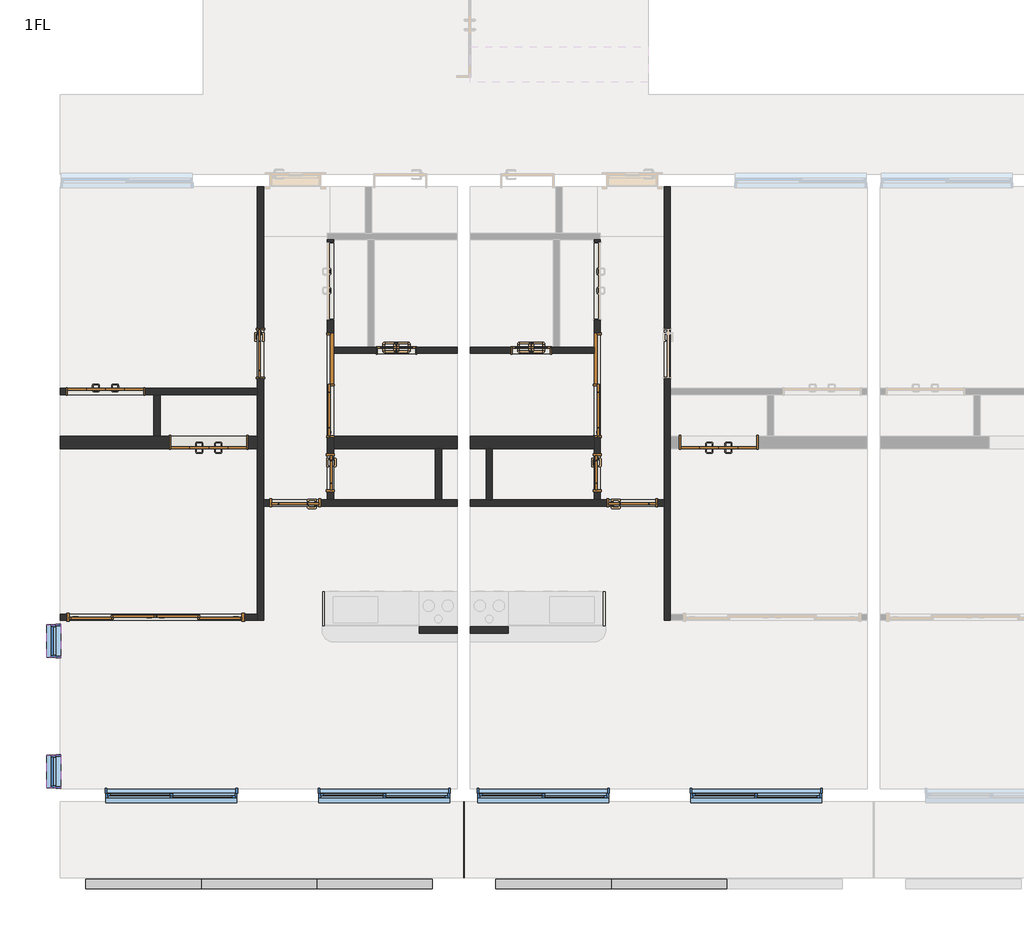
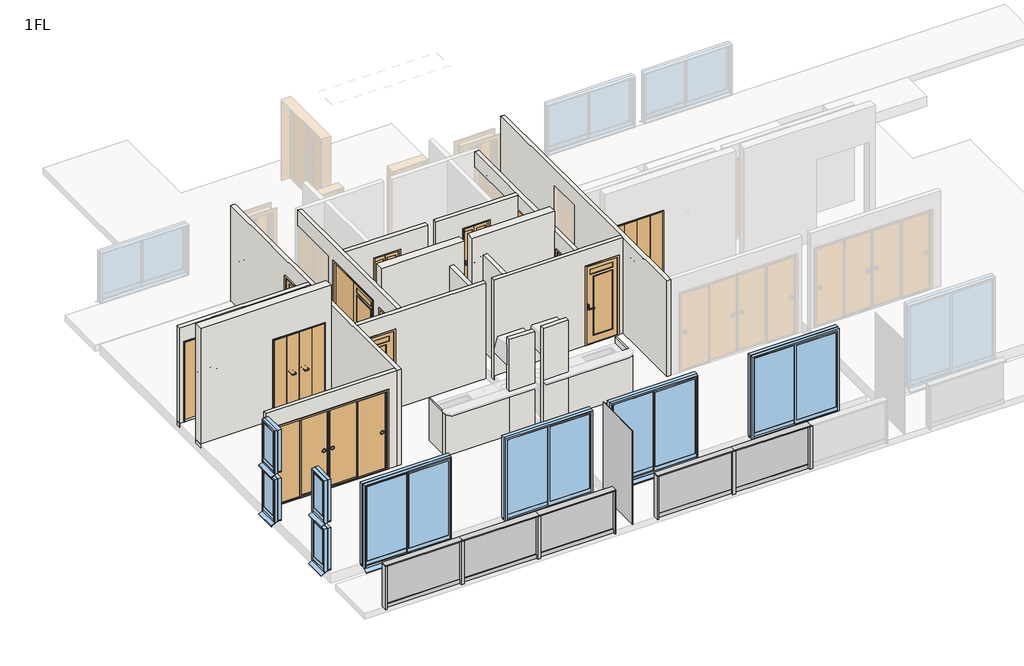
# One storey, part 1 of 3: 22 walls, 13 doors, 12 members, 8 windows, 6 plates.
"""IFC4 building model written with IfcOpenShell, lengths in millimetres."""

from ifc_helpers import new_model, si_unit, frame, origin, place, context, project, spatial, polyline, outline, extrude, faceted_brep, transform, mapped, element, save
from components import w1200h2000_6a144d60, w1200h2000_98cacc9b, w1200h2000_ebe1d490, w1600h2000_4c3c234a, w1600h2000_ca690e72, w2800h2000_670b855b, w600h2000_7f2747f4, w600h2000_6a266bef, w600h2000_94bb9c3c, w600h2000_8ea70a65, w800h2000_13e9f519, w800h2000_ccb03061, member_25x150_3f8205e2, member_25x150_f694351b, member_70x150_851c8a9b, plate_9f48129f, plate_365944b3, plate_cef4847d, window_2000x2000_f1ff98da, window_450x1000_e0a5e2da

model = new_model("IFC4")

# Units and contexts
model_context = context("Model", 3, world=origin())
ifc_project = project(units=[si_unit("LENGTHUNIT", "METRE", prefix="MILLI")], contexts=[model_context])

# Site, building, storey
site = spatial("IfcSite", under=ifc_project)
building = spatial("IfcBuilding", under=site)
storey = spatial("IfcBuildingStorey", under=building, Name="1FL", Elevation=1000.0)

# Doors
placement = place(None, origin())
w1200h2000_shape = w1200h2000_6a144d60(model_context)
element("IfcDoor", 1, ObjectType="木製折戸 : w1200h2000", at=placement, inside=storey, context=model_context, shape_type="MappedRepresentation", body=[
    mapped(w1200h2000_shape, transform((-10366.2187246, -9020.1171638, 1100.0), x_axis=(1.0, 0.0, 0.0), y_axis=(0.0, 1.0, 0.0), z_axis=(0.0, 0.0, 1.0))),
])
w1200h2000_2_shape = w1200h2000_98cacc9b(model_context)
element("IfcDoor", 2, ObjectType="木製折戸 : w1200h2000", at=placement, inside=storey, context=model_context, shape_type="MappedRepresentation", body=[
    mapped(w1200h2000_2_shape, transform((-8741.2187246, -9820.1171638, 1100.0), x_axis=(-1.0, 0.0, 0.0), y_axis=(0.0, -1.0, 0.0), z_axis=(0.0, 0.0, 1.0))),
])
w1200h2000_3_shape = w1200h2000_ebe1d490(model_context)
element("IfcDoor", 3, ObjectType="木製折戸 : w1200h2000", at=placement, inside=storey, context=model_context, shape_type="MappedRepresentation", body=[
    mapped(w1200h2000_3_shape, transform((-716.2187246, -9820.1171638, 1100.0), x_axis=(1.0, 0.0, 0.0), y_axis=(0.0, 1.0, 0.0), z_axis=(0.0, 0.0, 1.0))),
])
w1600h2000_shape = w1600h2000_4c3c234a(model_context)
element("IfcDoor", 4, ObjectType="片引戸CL2017 : w1600h2000", at=placement, inside=storey, context=model_context, shape_type="MappedRepresentation", body=[
    mapped(w1600h2000_shape, transform((-6828.7187246, -8920.1171638, 1100.0), x_axis=(0.0, -1.0, 0.0), y_axis=(1.0, 0.0, 0.0), z_axis=(0.0, 0.0, 1.0))),
])
w1600h2000_2_shape = w1600h2000_ca690e72(model_context)
element("IfcDoor", 5, ObjectType="片引戸CL2017 : w1600h2000", at=placement, inside=storey, context=model_context, shape_type="MappedRepresentation", body=[
    mapped(w1600h2000_2_shape, transform((-2628.7187246, -8920.1171638, 1100.0), x_axis=(0.0, -1.0, 0.0), y_axis=(1.0, 0.0, 0.0), z_axis=(0.0, 0.0, 1.0))),
])
w2800h2000_shape = w2800h2000_670b855b(model_context)
element("IfcDoor", 6, ObjectType="引違い 4 枚 2 溝_襖 : w2800h2000", at=placement, inside=storey, context=model_context, shape_type="MappedRepresentation", body=[
    mapped(w2800h2000_shape, transform((-9584.2542286, -12570.1171638, 1100.0), x_axis=(-1.0, 0.0, 0.0), y_axis=(0.0, -1.0, 0.0), z_axis=(0.0, 0.0, 1.0))),
])
w600h2000_shape = w600h2000_7f2747f4(model_context)
element("IfcDoor", 7, ObjectType="片開戸CL2058 : w600h2000", at=placement, inside=storey, context=model_context, shape_type="MappedRepresentation", body=[
    mapped(w600h2000_shape, transform((-6828.7187246, -10295.1171638, 1100.0), x_axis=(0.0, -1.0, 0.0), y_axis=(1.0, 0.0, 0.0), z_axis=(0.0, 0.0, 1.0))),
])
w600h2000_2_shape = w600h2000_6a266bef(model_context)
element("IfcDoor", 8, ObjectType="浴室折戸 : w600h2000", at=placement, inside=storey, context=model_context, shape_type="MappedRepresentation", body=[
    mapped(w600h2000_2_shape, transform((-5788.7187246, -8370.1171638, 1100.0), x_axis=(1.0, 0.0, 0.0), y_axis=(0.0, 1.0, 0.0), z_axis=(0.0, 0.0, 1.0))),
])
w600h2000_3_shape = w600h2000_94bb9c3c(model_context)
element("IfcDoor", 9, ObjectType="浴室折戸 : w600h2000", at=placement, inside=storey, context=model_context, shape_type="MappedRepresentation", body=[
    mapped(w600h2000_3_shape, transform((-3668.7187246, -8370.1171638, 1100.0), x_axis=(-1.0, 0.0, 0.0), y_axis=(0.0, -1.0, 0.0), z_axis=(0.0, 0.0, 1.0))),
])
w600h2000_4_shape = w600h2000_8ea70a65(model_context)
element("IfcDoor", 10, ObjectType="片開戸CL2058 : w600h2000", at=placement, inside=storey, context=model_context, shape_type="MappedRepresentation", body=[
    mapped(w600h2000_4_shape, transform((-2628.7187246, -10295.1171638, 1100.0), x_axis=(0.0, -1.0, 0.0), y_axis=(1.0, 0.0, 0.0), z_axis=(0.0, 0.0, 1.0))),
])
w800h2000_shape = w800h2000_13e9f519(model_context)
element("IfcDoor", 11, ObjectType="片開戸CL2058 : w800h2000", at=placement, inside=storey, context=model_context, shape_type="MappedRepresentation", body=[
    mapped(w800h2000_shape, transform((-7928.7187246, -8420.1171638, 1100.0), x_axis=(0.0, -1.0, 0.0), y_axis=(1.0, 0.0, 0.0), z_axis=(0.0, 0.0, 1.0))),
])
element("IfcDoor", 12, ObjectType="片開戸CL2058 : w800h2000", at=placement, inside=storey, context=model_context, shape_type="MappedRepresentation", body=[
    mapped(w800h2000_shape, transform((-2078.7187246, -10770.1171638, 1100.0), x_axis=(1.0, 0.0, 0.0), y_axis=(0.0, 1.0, 0.0), z_axis=(0.0, 0.0, 1.0))),
])
w800h2000_2_shape = w800h2000_ccb03061(model_context)
element("IfcDoor", 13, ObjectType="片開戸CL2058 : w800h2000", at=placement, inside=storey, context=model_context, shape_type="MappedRepresentation", body=[
    mapped(w800h2000_2_shape, transform((-7378.7187246, -10770.1171638, 1100.0), x_axis=(-1.0, 0.0, 0.0), y_axis=(0.0, -1.0, 0.0), z_axis=(0.0, 0.0, 1.0))),
])

# Members
member_25x150_shape = member_25x150_3f8205e2(model_context)
element("IfcMember", 14, ObjectType="長方形のマリオン : 25x150", at=placement, inside=storey, context=model_context, shape_type="MappedRepresentation", body=[
    mapped(member_25x150_shape, transform((-5228.7187246, -16770.1171638, 1000.0), x_axis=(1.0, 0.0, 0.0), y_axis=(0.0, -1.0, 0.0), z_axis=(0.0, 0.0, -1.0))),
])
element("IfcMember", 15, ObjectType="長方形のマリオン : 25x150", at=placement, inside=storey, context=model_context, shape_type="MappedRepresentation", body=[
    mapped(member_25x150_shape, transform((-10678.7187246, -16770.1171638, 2075.0), x_axis=(-1.0, 0.0, 0.0), y_axis=(0.0, -1.0, 0.0), z_axis=(0.0, 0.0, 1.0))),
])
element("IfcMember", 16, ObjectType="長方形のマリオン : 25x150", at=placement, inside=storey, context=model_context, shape_type="MappedRepresentation", body=[
    mapped(member_25x150_shape, transform((-4228.7187246, -16770.1171638, 2075.0), x_axis=(-1.0, 0.0, 0.0), y_axis=(0.0, -1.0, 0.0), z_axis=(0.0, 0.0, 1.0))),
])
member_25x150_2_shape = member_25x150_f694351b(model_context)
element("IfcMember", 17, ObjectType="長方形のマリオン : 25x150", at=placement, inside=storey, context=model_context, shape_type="MappedRepresentation", body=[
    mapped(member_25x150_2_shape, transform((-5228.7187246, -16770.1171638, 2100.0), x_axis=(0.0, 0.0, 1.0), y_axis=(0.0, -1.0, 0.0), z_axis=(1.0, 0.0, 0.0))),
])
element("IfcMember", 18, ObjectType="長方形のマリオン : 25x150", at=placement, inside=storey, context=model_context, shape_type="MappedRepresentation", body=[
    mapped(member_25x150_2_shape, transform((-8862.052058, -16770.1171638, 2100.0), x_axis=(0.0, 0.0, 1.0), y_axis=(0.0, -1.0, 0.0), z_axis=(1.0, 0.0, 0.0))),
])
element("IfcMember", 19, ObjectType="長方形のマリオン : 25x150", at=placement, inside=storey, context=model_context, shape_type="MappedRepresentation", body=[
    mapped(member_25x150_2_shape, transform((-2412.052058, -16770.1171638, 2100.0), x_axis=(0.0, 0.0, 1.0), y_axis=(0.0, -1.0, 0.0), z_axis=(1.0, 0.0, 0.0))),
])
element("IfcMember", 20, ObjectType="長方形のマリオン : 25x150", at=placement, inside=storey, context=model_context, shape_type="MappedRepresentation", body=[
    mapped(member_25x150_2_shape, transform((-7045.3853913, -16770.1171638, 2100.0), x_axis=(0.0, 0.0, 1.0), y_axis=(0.0, -1.0, 0.0), z_axis=(1.0, 0.0, 0.0))),
])
element("IfcMember", 21, ObjectType="長方形のマリオン : 25x150", at=placement, inside=storey, context=model_context, shape_type="MappedRepresentation", body=[
    mapped(member_25x150_2_shape, transform((-595.3853913, -16770.1171638, 2100.0), x_axis=(0.0, 0.0, 1.0), y_axis=(0.0, -1.0, 0.0), z_axis=(1.0, 0.0, 0.0))),
])
member_70x150_shape = member_70x150_851c8a9b(model_context)
element("IfcMember", 22, ObjectType="長方形のマリオン : 70x150", at=placement, inside=storey, context=model_context, shape_type="MappedRepresentation", body=[
    mapped(member_70x150_shape, transform((-8862.052058, -16770.1171638, 1000.0), x_axis=(1.0, 0.0, 0.0), y_axis=(0.0, -1.0, 0.0), z_axis=(0.0, 0.0, -1.0))),
])
element("IfcMember", 23, ObjectType="長方形のマリオン : 70x150", at=placement, inside=storey, context=model_context, shape_type="MappedRepresentation", body=[
    mapped(member_70x150_shape, transform((-7045.3853913, -16770.1171638, 1000.0), x_axis=(1.0, 0.0, 0.0), y_axis=(0.0, -1.0, 0.0), z_axis=(0.0, 0.0, -1.0))),
])
element("IfcMember", 24, ObjectType="長方形のマリオン : 70x150", at=placement, inside=storey, context=model_context, shape_type="MappedRepresentation", body=[
    mapped(member_70x150_shape, transform((-2412.052058, -16770.1171638, 1000.0), x_axis=(1.0, 0.0, 0.0), y_axis=(0.0, -1.0, 0.0), z_axis=(0.0, 0.0, -1.0))),
])
element("IfcMember", 25, ObjectType="長方形のマリオン : 70x150", at=placement, inside=storey, context=model_context, shape_type="MappedRepresentation", body=[
    mapped(member_70x150_shape, transform((-595.3853913, -16770.1171638, 1000.0), x_axis=(1.0, 0.0, 0.0), y_axis=(0.0, -1.0, 0.0), z_axis=(0.0, 0.0, -1.0))),
])

# Plates
plate_shape = plate_9f48129f(model_context)
element("IfcPlate", 26, ObjectType="r パネル FIX 下框付 : 框 H100", at=placement, inside=storey, context=model_context, shape_type="MappedRepresentation", body=[
    mapped(plate_shape, transform((-9775.3853913, -16770.1171638, 1000.0), x_axis=(1.0, 0.0, 0.0), y_axis=(0.0, 1.0, 0.0), z_axis=(0.0, 0.0, 1.0))),
])
element("IfcPlate", 27, ObjectType="r パネル FIX 下框付 : 框 H100", at=placement, inside=storey, context=model_context, shape_type="MappedRepresentation", body=[
    mapped(plate_shape, transform((-6132.052058, -16770.1171638, 1000.0), x_axis=(1.0, 0.0, 0.0), y_axis=(0.0, 1.0, 0.0), z_axis=(0.0, 0.0, 1.0))),
])
element("IfcPlate", 28, ObjectType="r パネル FIX 下框付 : 框 H100", at=placement, inside=storey, context=model_context, shape_type="MappedRepresentation", body=[
    mapped(plate_shape, transform((-3325.3853913, -16770.1171638, 1000.0), x_axis=(1.0, 0.0, 0.0), y_axis=(0.0, 1.0, 0.0), z_axis=(0.0, 0.0, 1.0))),
])
plate_2_shape = plate_365944b3(model_context)
element("IfcPlate", 29, ObjectType="r パネル FIX 下框付 : 框 H100", at=placement, inside=storey, context=model_context, shape_type="MappedRepresentation", body=[
    mapped(plate_2_shape, transform((-7953.7187246, -16770.1171638, 1000.0), x_axis=(1.0, 0.0, 0.0), y_axis=(0.0, 1.0, 0.0), z_axis=(0.0, 0.0, 1.0))),
])
element("IfcPlate", 30, ObjectType="r パネル FIX 下框付 : 框 H100", at=placement, inside=storey, context=model_context, shape_type="MappedRepresentation", body=[
    mapped(plate_2_shape, transform((-1503.7187246, -16770.1171638, 1000.0), x_axis=(1.0, 0.0, 0.0), y_axis=(0.0, 1.0, 0.0), z_axis=(0.0, 0.0, 1.0))),
])
plate_3_shape = plate_cef4847d(model_context)
element("IfcPlate", 31, ObjectType="システム パネル : 標準", at=placement, inside=storey, context=model_context, shape_type="MappedRepresentation", body=[
    mapped(plate_3_shape, transform((-4728.7187246, -16070.1171638, 950.0), x_axis=(0.0, -1.0, 0.0), y_axis=(1.0, 0.0, 0.0), z_axis=(0.0, 0.0, 1.0))),
])

# Walls
element("IfcWall", 32, ObjectType="(R)RC200", at=placement, inside=storey, context=model_context, shape_type="Brep", body=[
    faceted_brep([(-11078.7187246, -9920.1171638, 1000.0), (-7978.7187246, -9920.1171638, 1000.0), (-7978.7187246, -9920.1171638, 4000.0), (-11078.7187246, -9920.1171638, 4000.0), (-9361.2187246, -9920.1171638, 3120.0), (-8121.2187246, -9920.1171638, 3120.0), (-8121.2187246, -9920.1171638, 1100.0), (-9361.2187246, -9920.1171638, 1100.0), (-11078.7187246, -9720.1171638, 1000.0), (-11078.7187246, -9720.1171638, 4000.0), (-7978.7187246, -9720.1171638, 4000.0), (-7978.7187246, -9720.1171638, 1000.0), (-9503.7187246, -9720.1171638, 1000.0), (-9603.7187246, -9720.1171638, 1000.0), (-9361.2187246, -9720.1171638, 3120.0), (-9361.2187246, -9720.1171638, 1100.0), (-8121.2187246, -9720.1171638, 1100.0), (-8121.2187246, -9720.1171638, 3120.0)], [[[0, 1, 2, 3], [4, 5, 6, 7]], [[8, 9, 10, 11, 12, 13], [14, 15, 16, 17]], [[1, 0, 8, 13, 12, 11]], [[3, 2, 10, 9]], [[0, 3, 9, 8]], [[2, 1, 11, 10]], [[15, 14, 4, 7]], [[16, 15, 7, 6]], [[17, 16, 6, 5]], [[14, 17, 5, 4]]]),
])
element("IfcWall", 33, ObjectType="(R)RC200", at=placement, inside=storey, context=model_context, shape_type="Brep", body=[
    faceted_brep([(-6778.7187246, -9920.1171638, 1000.0), (-5178.7187246, -9920.1171638, 1000.0), (-5078.7187246, -9920.1171638, 1000.0), (-4828.7187246, -9920.1171638, 1000.0), (-4828.7187246, -9920.1171638, 4000.0), (-6778.7187246, -9920.1171638, 4000.0), (-6778.7187246, -9720.1171638, 1000.0), (-6778.7187246, -9720.1171638, 4000.0), (-4828.7187246, -9720.1171638, 4000.0), (-4828.7187246, -9720.1171638, 1000.0)], [[[0, 1, 2, 3, 4, 5]], [[6, 7, 8, 9]], [[3, 2, 1, 0, 6, 9]], [[5, 4, 8, 7]], [[4, 3, 9, 8]], [[0, 5, 7, 6]]]),
])
element("IfcWall", 34, ObjectType="(R)RC200", at=placement, inside=storey, context=model_context, shape_type="Brep", body=[
    faceted_brep([(-2678.7187246, -9720.1171638, 1000.0), (-4628.7187246, -9720.1171638, 1000.0), (-4628.7187246, -9720.1171638, 4000.0), (-2678.7187246, -9720.1171638, 4000.0), (-2678.7187246, -9920.1171638, 1000.0), (-2678.7187246, -9920.1171638, 4000.0), (-4628.7187246, -9920.1171638, 4000.0), (-4628.7187246, -9920.1171638, 1000.0), (-4378.7187246, -9920.1171638, 1000.0), (-4278.7187246, -9920.1171638, 1000.0)], [[[0, 1, 2, 3]], [[4, 5, 6, 7, 8, 9]], [[1, 0, 4, 9, 8, 7]], [[3, 2, 6, 5]], [[0, 3, 5, 4]], [[2, 1, 7, 6]]]),
])
element("IfcWall", 35, ObjectType="(F)30", at=placement, inside=storey, context=model_context, shape_type="SweptSolid", body=[
    extrude(outline(polyline([(-6951.1124404, -12720.1171638), (-6951.1124404, -12165.1171638), (-6921.1124404, -12165.1171638), (-6921.1124404, -12720.1171638), (-6951.1124404, -12720.1171638)])), frame((0.0, 0.0, 1100.0), z_axis=(0.0, 0.0, 1.0), x_axis=(1.0, 0.0, 0.0)), (0.0, 0.0, 1.0), 1060.0),
])
element("IfcWall", 36, ObjectType="(F)30", at=placement, inside=storey, context=model_context, shape_type="SweptSolid", body=[
    extrude(outline(polyline([(-2536.3250089, -12720.1171638), (-2536.3250089, -12165.1171638), (-2506.3250089, -12165.1171638), (-2506.3250089, -12720.1171638), (-2536.3250089, -12720.1171638)])), frame((0.0, 0.0, 1100.0), z_axis=(0.0, 0.0, 1.0), x_axis=(1.0, 0.0, 0.0)), (0.0, 0.0, 1.0), 1060.0),
])
element("IfcWall", 37, ObjectType="(L1)LGS100", at=placement, inside=storey, context=model_context, shape_type="Brep", body=[
    faceted_brep([(-11078.7187246, -9070.1171638, 1000.0), (-9603.7187246, -9070.1171638, 1000.0), (-9503.7187246, -9070.1171638, 1000.0), (-7978.7187246, -9070.1171638, 1000.0), (-7978.7187246, -9070.1171638, 3500.0), (-9503.7187246, -9070.1171638, 3500.0), (-9603.7187246, -9070.1171638, 3500.0), (-11078.7187246, -9070.1171638, 3500.0), (-9746.2187246, -9070.1171638, 3120.0), (-9746.2187246, -9070.1171638, 1100.0), (-10986.2187246, -9070.1171638, 1100.0), (-10986.2187246, -9070.1171638, 3120.0), (-7978.7187246, -8970.1171638, 1000.0), (-11078.7187246, -8970.1171638, 1000.0), (-11078.7187246, -8970.1171638, 3500.0), (-7978.7187246, -8970.1171638, 3500.0), (-9746.2187246, -8970.1171638, 1100.0), (-9746.2187246, -8970.1171638, 3120.0), (-10986.2187246, -8970.1171638, 3120.0), (-10986.2187246, -8970.1171638, 1100.0)], [[[0, 1, 2, 3, 4, 5, 6, 7], [8, 9, 10, 11]], [[12, 13, 14, 15], [16, 17, 18, 19]], [[3, 2, 1, 0, 13, 12]], [[7, 6, 5, 4, 15, 14]], [[0, 7, 14, 13]], [[4, 3, 12, 15]], [[8, 17, 16, 9]], [[9, 16, 19, 10]], [[17, 8, 11, 18]], [[18, 11, 10, 19]]]),
])
element("IfcWall", 38, ObjectType="(L1)LGS100", at=placement, inside=storey, context=model_context, shape_type="SweptSolid", body=[
    extrude(outline(polyline([(-9503.7187246, -9070.1171638), (-9503.7187246, -9720.1171638), (-9603.7187246, -9720.1171638), (-9603.7187246, -9070.1171638), (-9503.7187246, -9070.1171638)])), frame((0.0, 0.0, 1000.0), z_axis=(0.0, 0.0, 1.0), x_axis=(1.0, 0.0, 0.0)), (0.0, 0.0, 1.0), 2500.0),
])
element("IfcWall", 39, ObjectType="(L1)LGS100", at=placement, inside=storey, context=model_context, shape_type="Brep", body=[
    faceted_brep([(-7878.7187246, -12620.1171638, 1000.0), (-7878.7187246, -10820.1171638, 1000.0), (-7878.7187246, -10720.1171638, 1000.0), (-7878.7187246, -5800.1171638, 1000.0), (-7878.7187246, -5800.1171638, 3500.0), (-7878.7187246, -10720.1171638, 3500.0), (-7878.7187246, -10820.1171638, 3500.0), (-7878.7187246, -12620.1171638, 3500.0), (-7878.7187246, -8820.1171638, 1100.0), (-7878.7187246, -8820.1171638, 3100.0), (-7878.7187246, -8020.1171638, 3100.0), (-7878.7187246, -8020.1171638, 1100.0), (-7978.7187246, -12620.1171638, 1000.0), (-7978.7187246, -12620.1171638, 3500.0), (-7978.7187246, -12520.1171638, 3500.0), (-7978.7187246, -9070.1171638, 3500.0), (-7978.7187246, -8970.1171638, 3500.0), (-7978.7187246, -5800.1171638, 3500.0), (-7978.7187246, -5800.1171638, 1000.0), (-7978.7187246, -8970.1171638, 1000.0), (-7978.7187246, -9070.1171638, 1000.0), (-7978.7187246, -9720.1171638, 1000.0), (-7978.7187246, -9920.1171638, 1000.0), (-7978.7187246, -12520.1171638, 1000.0), (-7978.7187246, -8820.1171638, 1100.0), (-7978.7187246, -8020.1171638, 1100.0), (-7978.7187246, -8020.1171638, 3100.0), (-7978.7187246, -8820.1171638, 3100.0)], [[[0, 1, 2, 3, 4, 5, 6, 7], [8, 9, 10, 11]], [[12, 13, 14, 15, 16, 17, 18, 19, 20, 21, 22, 23], [24, 25, 26, 27]], [[3, 2, 1, 0, 12, 23, 22, 21, 20, 19, 18]], [[7, 6, 5, 4, 17, 16, 15, 14, 13]], [[4, 3, 18, 17]], [[0, 7, 13, 12]], [[9, 8, 24, 27]], [[10, 9, 27, 26]], [[11, 10, 26, 25]], [[8, 11, 25, 24]]]),
])
element("IfcWall", 40, ObjectType="(L1)LGS100", at=placement, inside=storey, context=model_context, shape_type="Brep", body=[
    faceted_brep([(-6778.7187246, -8420.1171638, 1000.0), (-4828.7187246, -8420.1171638, 1000.0), (-4828.7187246, -8420.1171638, 3500.0), (-6778.7187246, -8420.1171638, 3500.0), (-5468.7187246, -8420.1171638, 3120.0), (-5468.7187246, -8420.1171638, 1100.0), (-6108.7187246, -8420.1171638, 1100.0), (-6108.7187246, -8420.1171638, 3120.0), (-6778.7187246, -8320.1171638, 1000.0), (-6778.7187246, -8320.1171638, 3500.0), (-6238.7187246, -8320.1171638, 3500.0), (-6138.7187246, -8320.1171638, 3500.0), (-4828.7187246, -8320.1171638, 3500.0), (-4828.7187246, -8320.1171638, 1000.0), (-6138.7187246, -8320.1171638, 1000.0), (-6238.7187246, -8320.1171638, 1000.0), (-5468.7187246, -8320.1171638, 3120.0), (-6108.7187246, -8320.1171638, 3120.0), (-6108.7187246, -8320.1171638, 1100.0), (-5468.7187246, -8320.1171638, 1100.0)], [[[0, 1, 2, 3], [4, 5, 6, 7]], [[8, 9, 10, 11, 12, 13, 14, 15], [16, 17, 18, 19]], [[1, 0, 8, 15, 14, 13]], [[3, 2, 12, 11, 10, 9]], [[2, 1, 13, 12]], [[0, 3, 9, 8]], [[5, 4, 16, 19]], [[6, 5, 19, 18]], [[7, 6, 18, 17]], [[4, 7, 17, 16]]]),
])
element("IfcWall", 41, ObjectType="(L1)LGS100", at=placement, inside=storey, context=model_context, shape_type="Brep", body=[
    faceted_brep([(-6778.7187246, -10720.1171638, 1000.0), (-6778.7187246, -9920.1171638, 1000.0), (-6778.7187246, -9720.1171638, 1000.0), (-6778.7187246, -8420.1171638, 1000.0), (-6778.7187246, -8320.1171638, 1000.0), (-6778.7187246, -6630.1171638, 1000.0), (-6778.7187246, -6630.1171638, 3500.0), (-6778.7187246, -8320.1171638, 3500.0), (-6778.7187246, -8420.1171638, 3500.0), (-6778.7187246, -10720.1171638, 3500.0), (-6778.7187246, -10595.1171638, 1100.0), (-6778.7187246, -10595.1171638, 3100.0), (-6778.7187246, -9995.1171638, 3100.0), (-6778.7187246, -9995.1171638, 1100.0), (-6778.7187246, -6660.1171638, 1100.0), (-6778.7187246, -7900.1171638, 1100.0), (-6778.7187246, -7900.1171638, 3120.0), (-6778.7187246, -6660.1171638, 3120.0), (-6778.7187246, -9745.1171638, 1100.0), (-6778.7187246, -9745.1171638, 3140.0), (-6778.7187246, -8095.1171638, 3140.0), (-6778.7187246, -8095.1171638, 1100.0), (-6878.7187246, -6630.1171638, 1000.0), (-6878.7187246, -10720.1171638, 1000.0), (-6878.7187246, -10720.1171638, 3500.0), (-6878.7187246, -6630.1171638, 3500.0), (-6878.7187246, -10595.1171638, 1100.0), (-6878.7187246, -9995.1171638, 1100.0), (-6878.7187246, -9995.1171638, 3100.0), (-6878.7187246, -10595.1171638, 3100.0), (-6878.7187246, -7900.1171638, 1100.0), (-6878.7187246, -6660.1171638, 1100.0), (-6878.7187246, -6660.1171638, 3120.0), (-6878.7187246, -7900.1171638, 3120.0), (-6878.7187246, -9745.1171638, 1100.0), (-6878.7187246, -8095.1171638, 1100.0), (-6878.7187246, -8095.1171638, 3140.0), (-6878.7187246, -9745.1171638, 3140.0)], [[[0, 1, 2, 3, 4, 5, 6, 7, 8, 9], [10, 11, 12, 13], [14, 15, 16, 17], [18, 19, 20, 21]], [[22, 23, 24, 25], [26, 27, 28, 29], [30, 31, 32, 33], [34, 35, 36, 37]], [[5, 4, 3, 2, 1, 0, 23, 22]], [[9, 8, 7, 6, 25, 24]], [[0, 9, 24, 23]], [[6, 5, 22, 25]], [[11, 10, 26, 29]], [[12, 11, 29, 28]], [[13, 12, 28, 27]], [[10, 13, 27, 26]], [[14, 31, 30, 15]], [[15, 30, 33, 16]], [[16, 33, 32, 17]], [[19, 18, 34, 37]], [[20, 19, 37, 36]], [[21, 20, 36, 35]], [[18, 21, 35, 34]], [[31, 14, 17, 32]]]),
])
element("IfcWall", 42, ObjectType="(L1)LGS100", at=placement, inside=storey, context=model_context, shape_type="SweptSolid", body=[
    extrude(outline(polyline([(-5078.7187246, -9920.1171638), (-5078.7187246, -10720.1171638), (-5178.7187246, -10720.1171638), (-5178.7187246, -9920.1171638), (-5078.7187246, -9920.1171638)])), frame((0.0, 0.0, 1000.0), z_axis=(0.0, 0.0, 1.0), x_axis=(1.0, 0.0, 0.0)), (0.0, 0.0, 1.0), 2500.0),
])
element("IfcWall", 43, ObjectType="(L1)LGS100", at=placement, inside=storey, context=model_context, shape_type="Brep", body=[
    faceted_brep([(-7878.7187246, -10820.1171638, 1000.0), (-4828.7187246, -10820.1171638, 1000.0), (-4828.7187246, -10820.1171638, 3500.0), (-7878.7187246, -10820.1171638, 3500.0), (-7778.7187246, -10820.1171638, 1100.0), (-7778.7187246, -10820.1171638, 3100.0), (-6978.7187246, -10820.1171638, 3100.0), (-6978.7187246, -10820.1171638, 1100.0), (-4828.7187246, -10720.1171638, 1000.0), (-5078.7187246, -10720.1171638, 1000.0), (-5178.7187246, -10720.1171638, 1000.0), (-6778.7187246, -10720.1171638, 1000.0), (-6878.7187246, -10720.1171638, 1000.0), (-7878.7187246, -10720.1171638, 1000.0), (-7878.7187246, -10720.1171638, 3500.0), (-6878.7187246, -10720.1171638, 3500.0), (-6778.7187246, -10720.1171638, 3500.0), (-5178.7187246, -10720.1171638, 3500.0), (-5078.7187246, -10720.1171638, 3500.0), (-4828.7187246, -10720.1171638, 3500.0), (-7778.7187246, -10720.1171638, 3100.0), (-7778.7187246, -10720.1171638, 1100.0), (-6978.7187246, -10720.1171638, 1100.0), (-6978.7187246, -10720.1171638, 3100.0)], [[[0, 1, 2, 3], [4, 5, 6, 7]], [[8, 9, 10, 11, 12, 13, 14, 15, 16, 17, 18, 19], [20, 21, 22, 23]], [[1, 0, 13, 12, 11, 10, 9, 8]], [[3, 2, 19, 18, 17, 16, 15, 14]], [[2, 1, 8, 19]], [[0, 3, 14, 13]], [[4, 21, 20, 5]], [[5, 20, 23, 6]], [[6, 23, 22, 7]], [[21, 4, 7, 22]]]),
])
element("IfcWall", 44, ObjectType="(L1)LGS100", at=placement, inside=storey, context=model_context, shape_type="SweptSolid", body=[
    extrude(outline(polyline([(1000.0, -11078.7187246), (1000.0, -7978.7187246), (3500.0, -7978.7187246), (3500.0, -11078.7187246), (1000.0, -11078.7187246)]), holes=[polyline([(3100.0, -10978.7187246), (3100.0, -8178.7187246), (1100.0, -8178.7187246), (1100.0, -10978.7187246), (3100.0, -10978.7187246)])]), frame((0.0, -12620.1171638, 0.0), z_axis=(0.0, 1.0, 0.0), x_axis=(0.0, 0.0, 1.0)), (0.0, 0.0, 1.0), 100.0),
])
element("IfcWall", 45, ObjectType="(L1)LGS100", at=placement, inside=storey, context=model_context, shape_type="Brep", body=[
    faceted_brep([(-1478.7187246, -12620.1171638, 1000.0), (-1478.7187246, -12520.1171638, 1000.0), (-1478.7187246, -9920.1171638, 1000.0), (-1478.7187246, -9720.1171638, 1000.0), (-1478.7187246, -9070.1171638, 1000.0), (-1478.7187246, -8970.1171638, 1000.0), (-1478.7187246, -5800.1171638, 1000.0), (-1478.7187246, -5800.1171638, 3500.0), (-1478.7187246, -8970.1171638, 3500.0), (-1478.7187246, -9070.1171638, 3500.0), (-1478.7187246, -12520.1171638, 3500.0), (-1478.7187246, -12620.1171638, 3500.0), (-1478.7187246, -8820.1171638, 1100.0), (-1478.7187246, -8820.1171638, 3100.0), (-1478.7187246, -8020.1171638, 3100.0), (-1478.7187246, -8020.1171638, 1100.0), (-1578.7187246, -12620.1171638, 1000.0), (-1578.7187246, -12620.1171638, 3500.0), (-1578.7187246, -10820.1171638, 3500.0), (-1578.7187246, -10720.1171638, 3500.0), (-1578.7187246, -5800.1171638, 3500.0), (-1578.7187246, -5800.1171638, 1000.0), (-1578.7187246, -10720.1171638, 1000.0), (-1578.7187246, -10820.1171638, 1000.0), (-1578.7187246, -8820.1171638, 1100.0), (-1578.7187246, -8020.1171638, 1100.0), (-1578.7187246, -8020.1171638, 3100.0), (-1578.7187246, -8820.1171638, 3100.0)], [[[0, 1, 2, 3, 4, 5, 6, 7, 8, 9, 10, 11], [12, 13, 14, 15]], [[16, 17, 18, 19, 20, 21, 22, 23], [24, 25, 26, 27]], [[6, 5, 4, 3, 2, 1, 0, 16, 23, 22, 21]], [[11, 10, 9, 8, 7, 20, 19, 18, 17]], [[0, 11, 17, 16]], [[13, 12, 24, 27]], [[14, 13, 27, 26]], [[15, 14, 26, 25]], [[12, 15, 25, 24]], [[7, 6, 21, 20]]]),
])
element("IfcWall", 46, ObjectType="(L1)LGS100", at=placement, inside=storey, context=model_context, shape_type="Brep", body=[
    faceted_brep([(-2678.7187246, -8320.1171638, 1000.0), (-3218.7187246, -8320.1171638, 1000.0), (-3318.7187246, -8320.1171638, 1000.0), (-4628.7187246, -8320.1171638, 1000.0), (-4628.7187246, -8320.1171638, 3500.0), (-3318.7187246, -8320.1171638, 3500.0), (-3218.7187246, -8320.1171638, 3500.0), (-2678.7187246, -8320.1171638, 3500.0), (-3988.7187246, -8320.1171638, 3120.0), (-3988.7187246, -8320.1171638, 1100.0), (-3348.7187246, -8320.1171638, 1100.0), (-3348.7187246, -8320.1171638, 3120.0), (-2678.7187246, -8420.1171638, 1000.0), (-2678.7187246, -8420.1171638, 3500.0), (-4628.7187246, -8420.1171638, 3500.0), (-4628.7187246, -8420.1171638, 1000.0), (-3988.7187246, -8420.1171638, 3120.0), (-3348.7187246, -8420.1171638, 3120.0), (-3348.7187246, -8420.1171638, 1100.0), (-3988.7187246, -8420.1171638, 1100.0)], [[[0, 1, 2, 3, 4, 5, 6, 7], [8, 9, 10, 11]], [[12, 13, 14, 15], [16, 17, 18, 19]], [[3, 2, 1, 0, 12, 15]], [[7, 6, 5, 4, 14, 13]], [[0, 7, 13, 12]], [[9, 8, 16, 19]], [[10, 9, 19, 18]], [[11, 10, 18, 17]], [[8, 11, 17, 16]], [[4, 3, 15, 14]]]),
])
element("IfcWall", 47, ObjectType="(L1)LGS100", at=placement, inside=storey, context=model_context, shape_type="Brep", body=[
    faceted_brep([(-2578.7187246, -10720.1171638, 1000.0), (-2578.7187246, -6630.1171638, 1000.0), (-2578.7187246, -6630.1171638, 3500.0), (-2578.7187246, -10720.1171638, 3500.0), (-2578.7187246, -10595.1171638, 1100.0), (-2578.7187246, -10595.1171638, 3100.0), (-2578.7187246, -9995.1171638, 3100.0), (-2578.7187246, -9995.1171638, 1100.0), (-2578.7187246, -6660.1171638, 1100.0), (-2578.7187246, -7900.1171638, 1100.0), (-2578.7187246, -7900.1171638, 3120.0), (-2578.7187246, -6660.1171638, 3120.0), (-2578.7187246, -9745.1171638, 1100.0), (-2578.7187246, -9745.1171638, 3140.0), (-2578.7187246, -8095.1171638, 3140.0), (-2578.7187246, -8095.1171638, 1100.0), (-2678.7187246, -6630.1171638, 1000.0), (-2678.7187246, -8320.1171638, 1000.0), (-2678.7187246, -8420.1171638, 1000.0), (-2678.7187246, -9720.1171638, 1000.0), (-2678.7187246, -9920.1171638, 1000.0), (-2678.7187246, -10720.1171638, 1000.0), (-2678.7187246, -10720.1171638, 3500.0), (-2678.7187246, -8420.1171638, 3500.0), (-2678.7187246, -8320.1171638, 3500.0), (-2678.7187246, -6630.1171638, 3500.0), (-2678.7187246, -10595.1171638, 1100.0), (-2678.7187246, -9995.1171638, 1100.0), (-2678.7187246, -9995.1171638, 3100.0), (-2678.7187246, -10595.1171638, 3100.0), (-2678.7187246, -7900.1171638, 1100.0), (-2678.7187246, -6660.1171638, 1100.0), (-2678.7187246, -6660.1171638, 3120.0), (-2678.7187246, -7900.1171638, 3120.0), (-2678.7187246, -9745.1171638, 1100.0), (-2678.7187246, -8095.1171638, 1100.0), (-2678.7187246, -8095.1171638, 3140.0), (-2678.7187246, -9745.1171638, 3140.0)], [[[0, 1, 2, 3], [4, 5, 6, 7], [8, 9, 10, 11], [12, 13, 14, 15]], [[16, 17, 18, 19, 20, 21, 22, 23, 24, 25], [26, 27, 28, 29], [30, 31, 32, 33], [34, 35, 36, 37]], [[1, 0, 21, 20, 19, 18, 17, 16]], [[3, 2, 25, 24, 23, 22]], [[0, 3, 22, 21]], [[5, 4, 26, 29]], [[6, 5, 29, 28]], [[7, 6, 28, 27]], [[4, 7, 27, 26]], [[8, 31, 30, 9]], [[9, 30, 33, 10]], [[10, 33, 32, 11]], [[13, 12, 34, 37]], [[14, 13, 37, 36]], [[15, 14, 36, 35]], [[12, 15, 35, 34]], [[31, 8, 11, 32]], [[2, 1, 16, 25]]]),
])
element("IfcWall", 48, ObjectType="(L1)LGS100", at=placement, inside=storey, context=model_context, shape_type="SweptSolid", body=[
    extrude(outline(polyline([(-4278.7187246, -9920.1171638), (-4278.7187246, -10720.1171638), (-4378.7187246, -10720.1171638), (-4378.7187246, -9920.1171638), (-4278.7187246, -9920.1171638)])), frame((0.0, 0.0, 1000.0), z_axis=(0.0, 0.0, 1.0), x_axis=(1.0, 0.0, 0.0)), (0.0, 0.0, 1.0), 2500.0),
])
element("IfcWall", 49, ObjectType="(L1)LGS100", at=placement, inside=storey, context=model_context, shape_type="Brep", body=[
    faceted_brep([(-1578.7187246, -10720.1171638, 1000.0), (-2578.7187246, -10720.1171638, 1000.0), (-2678.7187246, -10720.1171638, 1000.0), (-4278.7187246, -10720.1171638, 1000.0), (-4378.7187246, -10720.1171638, 1000.0), (-4628.7187246, -10720.1171638, 1000.0), (-4628.7187246, -10720.1171638, 3500.0), (-4378.7187246, -10720.1171638, 3500.0), (-4278.7187246, -10720.1171638, 3500.0), (-2678.7187246, -10720.1171638, 3500.0), (-2578.7187246, -10720.1171638, 3500.0), (-1578.7187246, -10720.1171638, 3500.0), (-1678.7187246, -10720.1171638, 1100.0), (-1678.7187246, -10720.1171638, 3100.0), (-2478.7187246, -10720.1171638, 3100.0), (-2478.7187246, -10720.1171638, 1100.0), (-4628.7187246, -10820.1171638, 1000.0), (-1578.7187246, -10820.1171638, 1000.0), (-1578.7187246, -10820.1171638, 3500.0), (-4628.7187246, -10820.1171638, 3500.0), (-1678.7187246, -10820.1171638, 3100.0), (-1678.7187246, -10820.1171638, 1100.0), (-2478.7187246, -10820.1171638, 1100.0), (-2478.7187246, -10820.1171638, 3100.0)], [[[0, 1, 2, 3, 4, 5, 6, 7, 8, 9, 10, 11], [12, 13, 14, 15]], [[16, 17, 18, 19], [20, 21, 22, 23]], [[5, 4, 3, 2, 1, 0, 17, 16]], [[11, 10, 9, 8, 7, 6, 19, 18]], [[0, 11, 18, 17]], [[12, 21, 20, 13]], [[13, 20, 23, 14]], [[14, 23, 22, 15]], [[21, 12, 15, 22]], [[6, 5, 16, 19]]]),
])
element("IfcWall", 50, ObjectType="(L1)LGS100", at=placement, inside=storey, context=model_context, shape_type="Brep", body=[
    faceted_brep([(-4828.7187246, -12720.1171638, 1000.0), (-5428.7187246, -12720.1171638, 1000.0), (-5428.7187246, -12720.1171638, 2160.0), (-5428.7187246, -12720.1171638, 3500.0), (-4828.7187246, -12720.1171638, 3500.0), (-4828.7187246, -12820.1171638, 1000.0), (-4828.7187246, -12820.1171638, 3500.0), (-5428.7187246, -12820.1171638, 3500.0), (-5428.7187246, -12820.1171638, 2160.0), (-5428.7187246, -12820.1171638, 1000.0)], [[[0, 1, 2, 3, 4]], [[5, 6, 7, 8, 9]], [[1, 0, 5, 9]], [[3, 2, 1, 9, 8, 7]], [[4, 3, 7, 6]], [[0, 4, 6, 5]]]),
])
element("IfcWall", 51, ObjectType="(L1)LGS100", at=placement, inside=storey, context=model_context, shape_type="Brep", body=[
    faceted_brep([(-6951.1124404, -12820.1171638, 1000.0), (-5428.7187246, -12820.1171638, 1000.0), (-5428.7187246, -12820.1171638, 2160.0), (-6951.1124404, -12820.1171638, 2160.0), (-6951.1124404, -12720.1171638, 1000.0), (-6951.1124404, -12720.1171638, 1100.0), (-6951.1124404, -12720.1171638, 2160.0), (-6921.1124404, -12720.1171638, 2160.0), (-5428.7187246, -12720.1171638, 2160.0), (-5428.7187246, -12720.1171638, 1000.0)], [[[0, 1, 2, 3]], [[4, 5, 6, 7, 8, 9]], [[1, 0, 4, 9]], [[2, 1, 9, 8]], [[3, 2, 8, 7, 6]], [[0, 3, 6, 5, 4]]]),
])
element("IfcWall", 52, ObjectType="(L1)LGS100", at=placement, inside=storey, context=model_context, shape_type="Brep", body=[
    faceted_brep([(-4628.7187246, -12820.1171638, 1000.0), (-4028.7187246, -12820.1171638, 1000.0), (-4028.7187246, -12820.1171638, 2160.0), (-4028.7187246, -12820.1171638, 3500.0), (-4628.7187246, -12820.1171638, 3500.0), (-4628.7187246, -12720.1171638, 1000.0), (-4628.7187246, -12720.1171638, 3500.0), (-4028.7187246, -12720.1171638, 3500.0), (-4028.7187246, -12720.1171638, 2160.0), (-4028.7187246, -12720.1171638, 1000.0)], [[[0, 1, 2, 3, 4]], [[5, 6, 7, 8, 9]], [[1, 0, 5, 9]], [[3, 2, 1, 9, 8, 7]], [[4, 3, 7, 6]], [[0, 4, 6, 5]]]),
])
element("IfcWall", 53, ObjectType="(L1)LGS100", at=placement, inside=storey, context=model_context, shape_type="Brep", body=[
    faceted_brep([(-2506.3250089, -12720.1171638, 1000.0), (-4028.7187246, -12720.1171638, 1000.0), (-4028.7187246, -12720.1171638, 2160.0), (-2536.3250089, -12720.1171638, 2160.0), (-2506.3250089, -12720.1171638, 2160.0), (-2506.3250089, -12720.1171638, 1100.0), (-2506.3250089, -12820.1171638, 1000.0), (-2506.3250089, -12820.1171638, 2160.0), (-4028.7187246, -12820.1171638, 2160.0), (-4028.7187246, -12820.1171638, 1000.0)], [[[0, 1, 2, 3, 4, 5]], [[6, 7, 8, 9]], [[1, 0, 6, 9]], [[2, 1, 9, 8]], [[4, 3, 2, 8, 7]], [[0, 5, 4, 7, 6]]]),
])

# Windows
window_2000x2000_shape = window_2000x2000_f1ff98da(model_context)
element("IfcWindow", 54, ObjectType="鋼製_一般枠_引違い-二枚 : 2000x2000", at=placement, inside=storey, context=model_context, shape_type="MappedRepresentation", body=[
    mapped(window_2000x2000_shape, transform((-9328.7187246, -15370.1171638, 200.0), x_axis=(-1.0, 0.0, 0.0), y_axis=(0.0, -1.0, 0.0), z_axis=(0.0, 0.0, 1.0))),
])
element("IfcWindow", 55, ObjectType="鋼製_一般枠_引違い-二枚 : 2000x2000", at=placement, inside=storey, context=model_context, shape_type="MappedRepresentation", body=[
    mapped(window_2000x2000_shape, transform((-5978.7187246, -15370.1171638, 200.0), x_axis=(-1.0, 0.0, 0.0), y_axis=(0.0, -1.0, 0.0), z_axis=(0.0, 0.0, 1.0))),
])
element("IfcWindow", 56, ObjectType="鋼製_一般枠_引違い-二枚 : 2000x2000", at=placement, inside=storey, context=model_context, shape_type="MappedRepresentation", body=[
    mapped(window_2000x2000_shape, transform((-128.7187246, -15370.1171638, 200.0), x_axis=(-1.0, 0.0, 0.0), y_axis=(0.0, -1.0, 0.0), z_axis=(0.0, 0.0, 1.0))),
])
element("IfcWindow", 57, ObjectType="鋼製_一般枠_引違い-二枚 : 2000x2000", at=placement, inside=storey, context=model_context, shape_type="MappedRepresentation", body=[
    mapped(window_2000x2000_shape, transform((-3478.7187246, -15370.1171638, 200.0), x_axis=(-1.0, 0.0, 0.0), y_axis=(0.0, -1.0, 0.0), z_axis=(0.0, 0.0, 1.0))),
])
window_450x1000_shape = window_450x1000_e0a5e2da(model_context)
element("IfcWindow", 58, ObjectType="鋼製_一般枠_嵌殺し : 450x1000", at=placement, inside=storey, context=model_context, shape_type="MappedRepresentation", body=[
    mapped(window_450x1000_shape, transform((-11178.7187246, -14995.1171638, 10.0), x_axis=(0.0, 1.0, 0.0), y_axis=(-1.0, 0.0, 0.0), z_axis=(0.0, 0.0, 1.0))),
])
element("IfcWindow", 59, ObjectType="鋼製_一般枠_嵌殺し : 450x1000", at=placement, inside=storey, context=model_context, shape_type="MappedRepresentation", body=[
    mapped(window_450x1000_shape, transform((-11178.7187246, -12945.1171638, 10.0), x_axis=(0.0, 1.0, 0.0), y_axis=(-1.0, 0.0, 0.0), z_axis=(0.0, 0.0, 1.0))),
])
element("IfcWindow", 60, ObjectType="鋼製_一般枠_嵌殺し : 450x1000", at=placement, inside=storey, context=model_context, shape_type="MappedRepresentation", body=[
    mapped(window_450x1000_shape, transform((-11178.7187246, -14995.1171638, 1230.0), x_axis=(0.0, 1.0, 0.0), y_axis=(-1.0, 0.0, 0.0), z_axis=(0.0, 0.0, 1.0))),
])
element("IfcWindow", 61, ObjectType="鋼製_一般枠_嵌殺し : 450x1000", at=placement, inside=storey, context=model_context, shape_type="MappedRepresentation", body=[
    mapped(window_450x1000_shape, transform((-11178.7187246, -12945.1171638, 1230.0), x_axis=(0.0, 1.0, 0.0), y_axis=(-1.0, 0.0, 0.0), z_axis=(0.0, 0.0, 1.0))),
])

save(model, "model.ifc")
